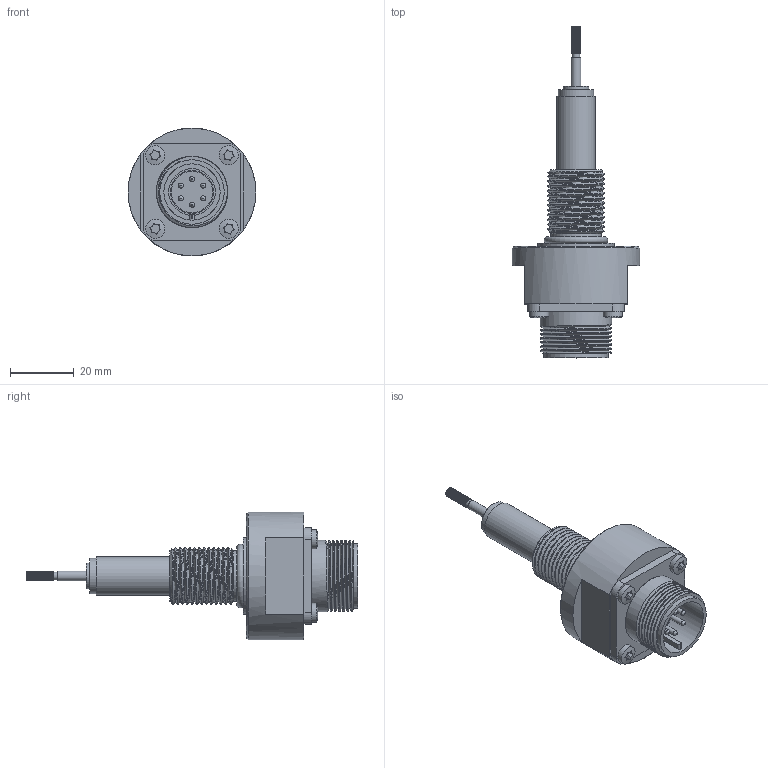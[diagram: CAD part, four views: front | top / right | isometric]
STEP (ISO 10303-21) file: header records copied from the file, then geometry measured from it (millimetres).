
FILE_DESCRIPTION( ( 'STEP AP203' ), '1' );
FILE_NAME( 'N:/Engineering/CAD_Solid/LVDT/HYD/Kunden-3D-Modell/SM2-HYD-18-S.stp', '2011-12-14T13:22:39', ( ' ' ), ( ' ' ), 'XStep 1.0', ' ', ' ' );
FILE_SCHEMA( ( 'CONFIG_CONTROL_DESIGN) ( )' ) );
Length unit declared in the file: metre
Products named in the file (17): 1; 2; 3; 4; 5; 6; 7; 8; 9; 10; 11; 12; 13; 14; 15; 16; 17
Bounding box: 40 x 103.9 x 40 mm (x, y, z)
Volume: 177.7 mm3; surface area: 14209.8 mm2
Topology: 1 solids, 135 shells, 143 faces, 638 edges, 593 vertices
Faces by surface type: plane 81, cylinder 37, bspline 13, cone 7, sphere 4, torus 1
Full cylindrical faces by diameter (mm): 1.6 x6, 2.4 x1, 3 x1, 4 x1, 6 x4, 8 x1, 11 x1, 12 x1, 15.8 x1, 17.6 x1, 20.2 x1, 22.3 x7, 24 x1, 40 x1
Entity records: 16849 total; most frequent: CARTESIAN_POINT 11505, DIRECTION 1032, ORIENTED_EDGE 565, EDGE_CURVE 565, VERTEX_POINT 565, AXIS2_PLACEMENT_3D 383, LINE 266, VECTOR 266
